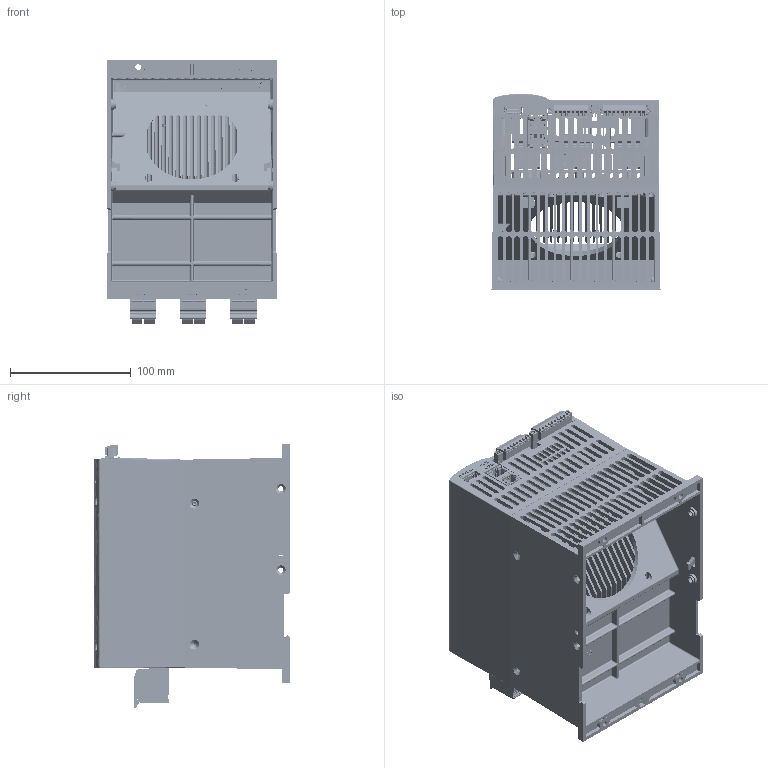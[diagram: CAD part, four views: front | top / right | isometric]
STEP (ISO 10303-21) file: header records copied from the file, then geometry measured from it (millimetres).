
FILE_DESCRIPTION(/* description */ (''),/* implementation_level */ '2;1');
FILE_NAME(/* name */ 'MicroFUSION 3-phase 8-32A.stp',/* time_stamp */ '2025-05-22T09:18:01-05:00',/* author */ ('PRD'),/* organization */ ('Control Concepts, Inc'),/* preprocessor_version */ 'ST-DEVELOPER v20',/* originating_system */ 'Autodesk Inventor 2025',/* authorisation */ '');
FILE_SCHEMA (('AUTOMOTIVE_DESIGN { 1 0 10303 214 3 1 1 }'));
Products named in the file (16): microfusion 3Ø 0-80a; 3001272; 3001267; 3001275; SCUF-3HX; USB_Ub_Vert_1051330031_1051330031-1; 0057721-0138-10; 8053142-1004-19; 0057721-0138-08; 0053155-0000-0016; ANSI B18.6.3 - No. 6 - 32 - 3/8; 3001276; 0053109-0400-02; 0053030-0138-08-S; 0053030-0138-10-S; 3001274
Assembly tree (20 placements, depth 3):
  microfusion 3Ø 0-80a
    3001272
    3001267
    3001275
    SCUF-3HX
      USB_Ub_Vert_1051330031_1051330031-1
      0057721-0138-10
      8053142-1004-19
      0057721-0138-08
      0053155-0000-0016
    ANSI B18.6.3 - No. 6 - 32 - 3/8  x4
    3001276
    0053109-0400-02  x3
    0053030-0138-08-S
    0053030-0138-10-S
    3001274
Bounding box: 139.71 x 162.05 x 218.05 mm (x, y, z)
Volume: 892462.3 mm3; surface area: 612850.6 mm2
Topology: 23 solids, 2500 shells, 12421 faces, 40360 edges, 30869 vertices
Faces by surface type: plane 9003, cylinder 2455, cone 414, bspline 315, torus 165, sphere 69
Full cylindrical faces by diameter (mm): 1.118 x1, 1.8 x4, 2 x32, 2.2 x12, 2.438 x2, 2.5 x12, 2.6 x4, 2.845 x4, 2.95 x18, 3.048 x3, 3.251 x3, 3.505 x4, 3.9 x4, 4.191 x4, 6.858 x4
Entity records: 457863 total; most frequent: CARTESIAN_POINT 122891, DIRECTION 64367, ORIENTED_EDGE 61743, EDGE_CURVE 37315, LINE 30039, VECTOR 30039, VERTEX_POINT 28869, AXIS2_PLACEMENT_3D 17164
